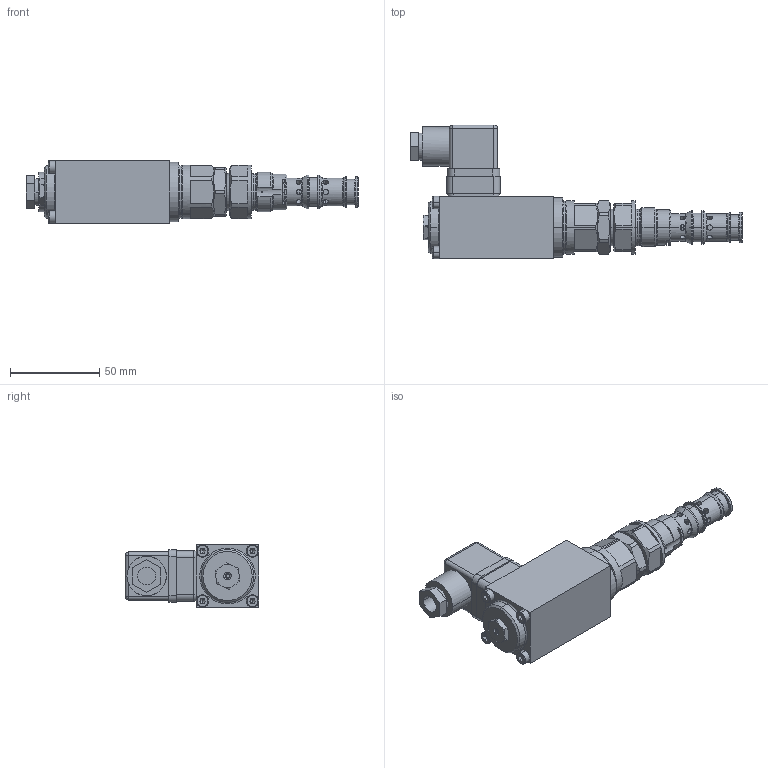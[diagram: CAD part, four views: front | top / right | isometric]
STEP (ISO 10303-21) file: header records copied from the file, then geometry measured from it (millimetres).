
FILE_DESCRIPTION (( 'STEP AP214' ), '1' );
FILE_NAME ('MVEPM22.STEP', '2017-05-05T12:15:21', ( '' ), ( '' ), 'SwSTEP 2.0', 'SolidWorks 2016', '' );
FILE_SCHEMA (( 'AUTOMOTIVE_DESIGN' ));
Length unit declared in the file: millimetre
Products named in the file (1): MVEPM22
Bounding box: 185.9 x 74.8 x 35 mm (x, y, z)
Volume: 157813.5 mm3; surface area: 41944.7 mm2
Topology: 8 solids, 15 shells, 842 faces, 2114 edges, 1341 vertices
Faces by surface type: plane 389, cylinder 302, cone 86, torus 59, bspline 6
Entity records: 35927 total; most frequent: CARTESIAN_POINT 6349, DIRECTION 4310, ORIENTED_EDGE 4200, EDGE_CURVE 2100, AXIS2_PLACEMENT_3D 1616, VERTEX_POINT 1341, LINE 1078, VECTOR 1078
